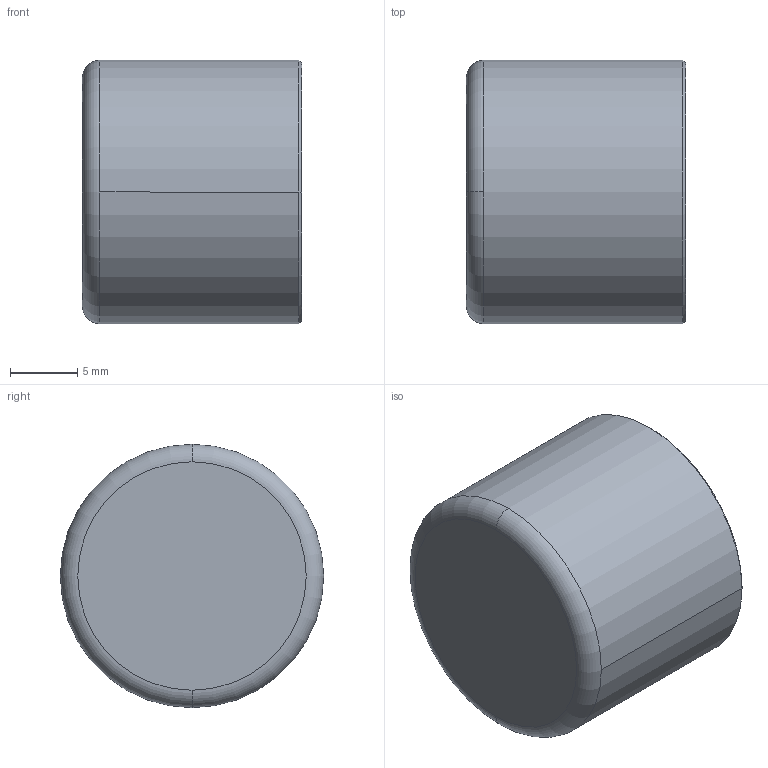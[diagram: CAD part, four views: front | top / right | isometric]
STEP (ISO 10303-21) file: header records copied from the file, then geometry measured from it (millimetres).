
FILE_DESCRIPTION((''),'2;1');
FILE_NAME('C:\sanha_work\5130\f\530118.stp','2005-10-21T18:20:03',('Kris'),(''),'Autodesk Inventor 8','Autodesk Inventor 8','');
FILE_SCHEMA(('AUTOMOTIVE_DESIGN { 1 0 10303 214 1 1 1 1 }'));
Length unit declared in the file: millimetre
Products named in the file (1): 530118
Bounding box: 16.3 x 19.6 x 19.6 mm (x, y, z)
Volume: 952.7 mm3; surface area: 2422.4 mm2
Topology: 1 solids, 1 shells, 15 faces, 34 edges, 22 vertices
Faces by surface type: torus 4, cylinder 4, cone 4, plane 3
Entity records: 461 total; most frequent: DIRECTION 92, CARTESIAN_POINT 72, ORIENTED_EDGE 68, AXIS2_PLACEMENT_3D 42, EDGE_CURVE 34, CIRCLE 26, VERTEX_POINT 22, EDGE_LOOP 16
